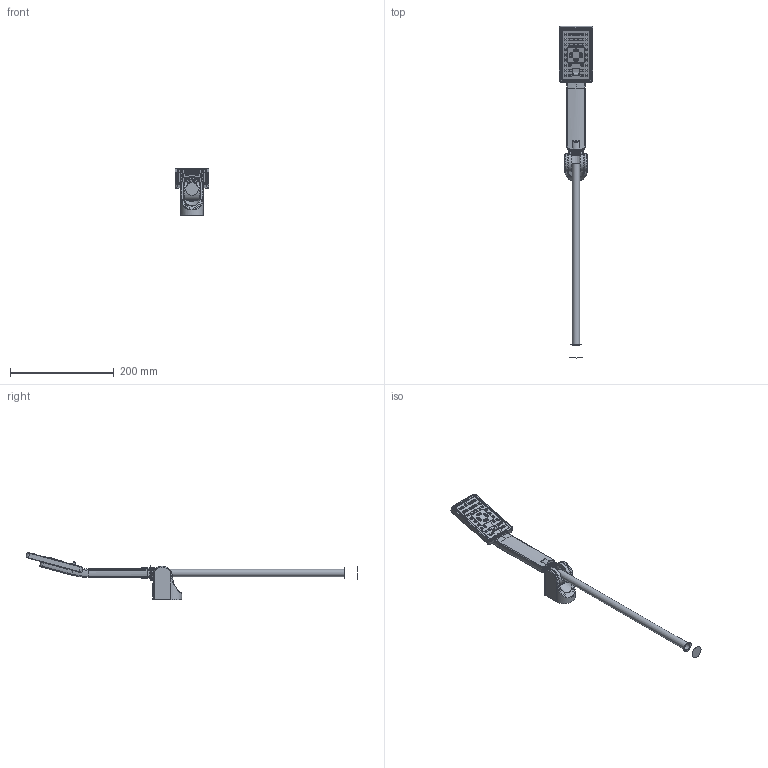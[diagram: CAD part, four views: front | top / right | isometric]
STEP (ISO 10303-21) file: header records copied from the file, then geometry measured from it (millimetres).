
FILE_DESCRIPTION(/* description */ (''),/* implementation_level */ '2;1');
FILE_NAME(/* name */ 'D:\Omnires\Export_Omnires\rys_step\5902539821703_stp.stp',/* time_stamp */ '2020-07-27T14:05:58+02:00',/* author */ (''),/* organization */ (''),/* preprocessor_version */ 'ST-DEVELOPER v18.1',/* originating_system */ 'Autodesk Inventor 2020',/* authorisation */ '');
FILE_SCHEMA (('AUTOMOTIVE_DESIGN { 1 0 10303 214 3 1 1 }'));
Products named in the file (1): 5902539821703_dwg
Bounding box: 65 x 638.68 x 90.67 mm (x, y, z)
Surface area: 162212.5 mm2 (no closed solid volume)
Topology: 0 solids, 16 shells, 5567 faces, 14327 edges, 8870 vertices
Faces by surface type: plane 1883, cylinder 1562, cone 832, torus 753, bspline 492, sphere 45
Full cylindrical faces by diameter (mm): 1.5 x4, 1.7 x8, 2.6 x9, 3.5 x2, 4.4 x2, 4.5 x1, 6.2 x1, 7.4 x2, 10.3 x1, 11.8 x1, 12 x1, 12.5 x2, 12.8 x1, 13.6 x1, 14 x1, 15.5 x2, 18.4 x1, 20.955 x4, 26.509 x1, 32 x2
Entity records: 209781 total; most frequent: CARTESIAN_POINT 67260, DIRECTION 29759, ORIENTED_EDGE 28586, EDGE_CURVE 14293, AXIS2_PLACEMENT_3D 11283, VERTEX_POINT 8870, LINE 7193, VECTOR 7193
